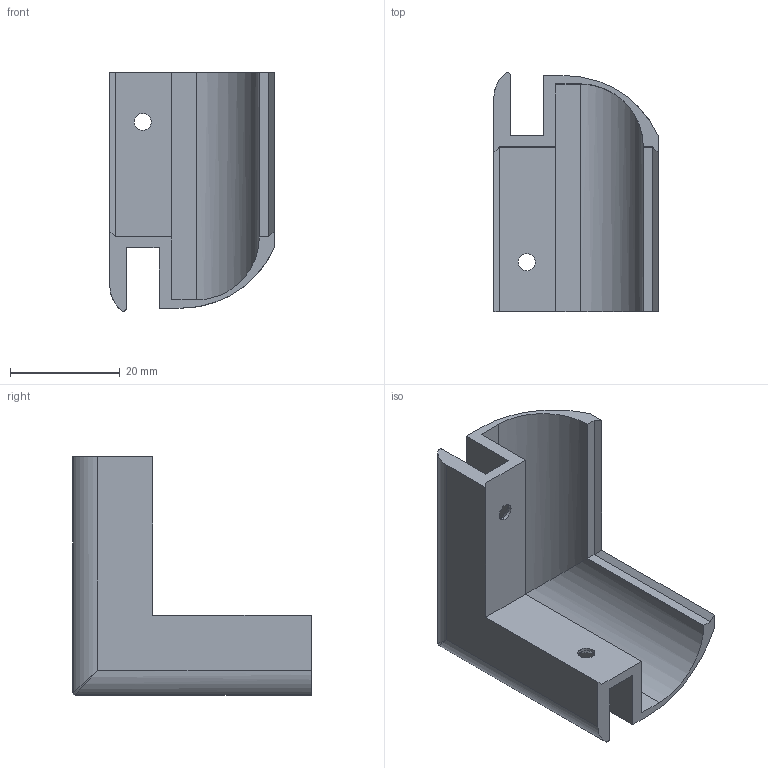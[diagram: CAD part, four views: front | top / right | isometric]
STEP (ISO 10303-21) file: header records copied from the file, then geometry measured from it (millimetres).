
FILE_DESCRIPTION (( 'STEP AP203' ), '1' );
FILE_NAME ('F030290.STEP', '2017-03-22T12:54:41', ( 'Localadmin' ), ( 'Microsoft' ), 'SwSTEP 2.0', 'SolidWorks 2016', '' );
FILE_SCHEMA (( 'CONFIG_CONTROL_DESIGN' ));
Length unit declared in the file: millimetre
Products named in the file (1): F030290
Bounding box: 30 x 43.58 x 43.58 mm (x, y, z)
Volume: 8255.8 mm3; surface area: 9105 mm2
Topology: 1 solids, 1 shells, 44 faces, 116 edges, 70 vertices
Faces by surface type: plane 23, cylinder 14, cone 4, bspline 2, sphere 1
Entity records: 1453 total; most frequent: CARTESIAN_POINT 297, ORIENTED_EDGE 228, DIRECTION 225, EDGE_CURVE 114, LINE 77, VECTOR 77, AXIS2_PLACEMENT_3D 74, VERTEX_POINT 70
